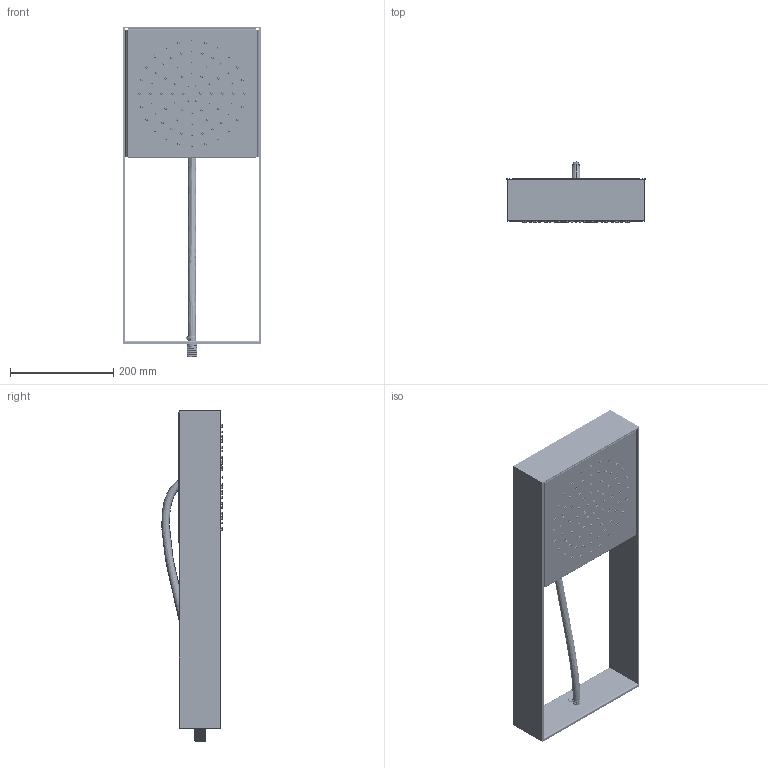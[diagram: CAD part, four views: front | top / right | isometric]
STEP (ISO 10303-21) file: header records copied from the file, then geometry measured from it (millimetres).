
FILE_DESCRIPTION((''),'2;1');
FILE_NAME('F2991_FILE_3D','2018-06-13T',('ivanv'),(''),'CREO PARAMETRIC BY PTC INC, 2016260','CREO PARAMETRIC BY PTC INC, 2016260','');
FILE_SCHEMA(('CONFIG_CONTROL_DESIGN'));
Products named in the file (1): F2991_FILE_3D
Bounding box: 267.98 x 116.91 x 641 mm (x, y, z)
Volume: 994317.8 mm3; surface area: 869665.5 mm2
Topology: 2 solids, 3 shells, 2966 faces, 7721 edges, 5025 vertices
Faces by surface type: cone 1242, plane 929, cylinder 362, torus 253, bspline 96, extrusion 70, revolution 12, sphere 2
Entity records: 143455 total; most frequent: CARTESIAN_POINT 68689, DIRECTION 15808, ORIENTED_EDGE 15438, EDGE_CURVE 7719, AXIS2_PLACEMENT_3D 6239, VERTEX_POINT 5025, EDGE_LOOP 3734, CIRCLE 3451
